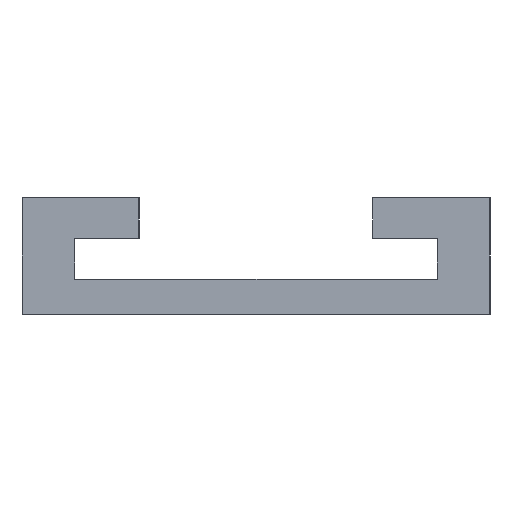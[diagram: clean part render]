
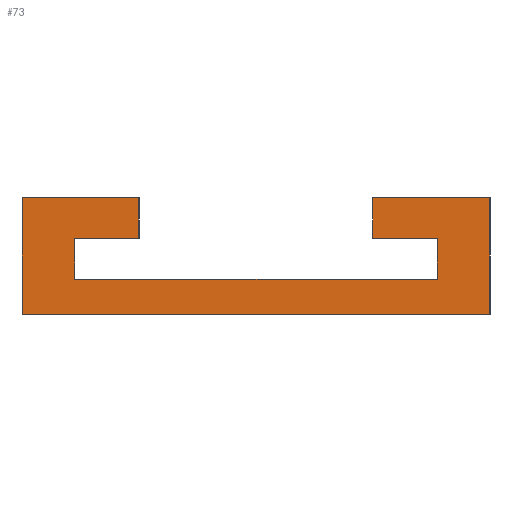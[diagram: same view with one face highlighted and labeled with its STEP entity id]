
A CAD part, left-side view. The second image highlights one B-rep face of the part: STEP entity #73.
In plain terms, the highlighted planar face has unit normal (-1, 0, 0).
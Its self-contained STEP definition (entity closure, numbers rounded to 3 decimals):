
#8 = VERTEX_POINT ( 'NONE', #239 ) ;
#18 = LINE ( 'NONE', #253, #305 ) ;
#21 = ORIENTED_EDGE ( 'NONE', *, *, #191, .F. ) ;
#25 = CARTESIAN_POINT ( 'NONE',  ( 0., 20., 0. ) ) ;
#27 = CARTESIAN_POINT ( 'NONE',  ( 0., 15.5, 6.5 ) ) ;
#28 = CARTESIAN_POINT ( 'NONE',  ( 0., 10., 6.5 ) ) ;
#30 = VECTOR ( 'NONE', #60, 1000. ) ;
#36 = EDGE_CURVE ( 'NONE', #204, #343, #192, .T. ) ;
#43 = LINE ( 'NONE', #207, #410 ) ;
#48 = FACE_OUTER_BOUND ( 'NONE', #108, .T. ) ;
#50 = EDGE_CURVE ( 'NONE', #343, #8, #84, .T. ) ;
#52 = ORIENTED_EDGE ( 'NONE', *, *, #92, .F. ) ;
#58 = CARTESIAN_POINT ( 'NONE',  ( 0., -15.5, 3. ) ) ;
#59 = DIRECTION ( 'NONE',  ( 0., 0., 1. ) ) ;
#60 = DIRECTION ( 'NONE',  ( 0., 0., -1. ) ) ;
#62 = VERTEX_POINT ( 'NONE', #411 ) ;
#68 = CARTESIAN_POINT ( 'NONE',  ( 0., 20., 10. ) ) ;
#73 = ADVANCED_FACE ( 'NONE', ( #48 ), #277, .F. ) ;
#77 = ORIENTED_EDGE ( 'NONE', *, *, #328, .F. ) ;
#84 = LINE ( 'NONE', #446, #304 ) ;
#89 = EDGE_CURVE ( 'NONE', #240, #189, #365, .T. ) ;
#92 = EDGE_CURVE ( 'NONE', #281, #301, #440, .T. ) ;
#94 = CARTESIAN_POINT ( 'NONE',  ( 0., 0., 0. ) ) ;
#99 = VERTEX_POINT ( 'NONE', #27 ) ;
#108 = EDGE_LOOP ( 'NONE', ( #52, #77, #346, #415, #233, #172, #274, #429, #376, #325, #273, #21 ) ) ;
#111 = VECTOR ( 'NONE', #59, 1000. ) ;
#114 = VERTEX_POINT ( 'NONE', #347 ) ;
#121 = EDGE_CURVE ( 'NONE', #189, #439, #460, .T. ) ;
#129 = AXIS2_PLACEMENT_3D ( 'NONE', #94, #424, #209 ) ;
#159 = CARTESIAN_POINT ( 'NONE',  ( 0., -10., 6.5 ) ) ;
#163 = EDGE_CURVE ( 'NONE', #180, #62, #237, .T. ) ;
#168 = DIRECTION ( 'NONE',  ( 0., -1., 0. ) ) ;
#170 = DIRECTION ( 'NONE',  ( 0., -1., 0. ) ) ;
#171 = CARTESIAN_POINT ( 'NONE',  ( 0., -20., 0. ) ) ;
#172 = ORIENTED_EDGE ( 'NONE', *, *, #372, .F. ) ;
#175 = CARTESIAN_POINT ( 'NONE',  ( 0., 20., 0. ) ) ;
#180 = VERTEX_POINT ( 'NONE', #272 ) ;
#189 = VERTEX_POINT ( 'NONE', #210 ) ;
#191 = EDGE_CURVE ( 'NONE', #301, #180, #43, .T. ) ;
#192 = LINE ( 'NONE', #159, #208 ) ;
#204 = VERTEX_POINT ( 'NONE', #320 ) ;
#207 = CARTESIAN_POINT ( 'NONE',  ( 0., 20., 10. ) ) ;
#208 = VECTOR ( 'NONE', #342, 1000. ) ;
#209 = DIRECTION ( 'NONE',  ( 0., 0., -1. ) ) ;
#210 = CARTESIAN_POINT ( 'NONE',  ( 0., -15.5, 3. ) ) ;
#221 = LINE ( 'NONE', #351, #30 ) ;
#228 = VECTOR ( 'NONE', #348, 1000. ) ;
#233 = ORIENTED_EDGE ( 'NONE', *, *, #36, .F. ) ;
#237 = LINE ( 'NONE', #280, #228 ) ;
#239 = CARTESIAN_POINT ( 'NONE',  ( 0., -20., 10. ) ) ;
#240 = VERTEX_POINT ( 'NONE', #387 ) ;
#244 = DIRECTION ( 'NONE',  ( 0., 0., 1. ) ) ;
#253 = CARTESIAN_POINT ( 'NONE',  ( 0., -15.5, 6.5 ) ) ;
#270 = VECTOR ( 'NONE', #168, 1000. ) ;
#272 = CARTESIAN_POINT ( 'NONE',  ( 0., 10., 10. ) ) ;
#273 = ORIENTED_EDGE ( 'NONE', *, *, #163, .F. ) ;
#274 = ORIENTED_EDGE ( 'NONE', *, *, #121, .F. ) ;
#277 = PLANE ( 'NONE',  #129 ) ;
#280 = CARTESIAN_POINT ( 'NONE',  ( 0., 10., 10. ) ) ;
#281 = VERTEX_POINT ( 'NONE', #175 ) ;
#285 = CARTESIAN_POINT ( 'NONE',  ( 0., -10., 10. ) ) ;
#286 = CARTESIAN_POINT ( 'NONE',  ( 0., -20., 10. ) ) ;
#299 = EDGE_CURVE ( 'NONE', #8, #114, #419, .T. ) ;
#301 = VERTEX_POINT ( 'NONE', #68 ) ;
#303 = EDGE_CURVE ( 'NONE', #99, #240, #221, .T. ) ;
#304 = VECTOR ( 'NONE', #414, 1000. ) ;
#305 = VECTOR ( 'NONE', #357, 1000. ) ;
#307 = LINE ( 'NONE', #171, #334 ) ;
#313 = LINE ( 'NONE', #28, #385 ) ;
#320 = CARTESIAN_POINT ( 'NONE',  ( 0., -10., 6.5 ) ) ;
#325 = ORIENTED_EDGE ( 'NONE', *, *, #394, .F. ) ;
#328 = EDGE_CURVE ( 'NONE', #114, #281, #307, .T. ) ;
#334 = VECTOR ( 'NONE', #427, 1000. ) ;
#342 = DIRECTION ( 'NONE',  ( 0., 0., 1. ) ) ;
#343 = VERTEX_POINT ( 'NONE', #285 ) ;
#346 = ORIENTED_EDGE ( 'NONE', *, *, #299, .F. ) ;
#347 = CARTESIAN_POINT ( 'NONE',  ( 0., -20., 0. ) ) ;
#348 = DIRECTION ( 'NONE',  ( 0., 0., -1. ) ) ;
#351 = CARTESIAN_POINT ( 'NONE',  ( 0., 15.5, 6.5 ) ) ;
#352 = DIRECTION ( 'NONE',  ( 0., 0., -1. ) ) ;
#357 = DIRECTION ( 'NONE',  ( 0., 1., 0. ) ) ;
#365 = LINE ( 'NONE', #382, #270 ) ;
#372 = EDGE_CURVE ( 'NONE', #439, #204, #18, .T. ) ;
#376 = ORIENTED_EDGE ( 'NONE', *, *, #303, .F. ) ;
#382 = CARTESIAN_POINT ( 'NONE',  ( 0., 15.5, 3. ) ) ;
#385 = VECTOR ( 'NONE', #459, 1000. ) ;
#387 = CARTESIAN_POINT ( 'NONE',  ( 0., 15.5, 3. ) ) ;
#394 = EDGE_CURVE ( 'NONE', #62, #99, #313, .T. ) ;
#410 = VECTOR ( 'NONE', #170, 1000. ) ;
#411 = CARTESIAN_POINT ( 'NONE',  ( 0., 10., 6.5 ) ) ;
#414 = DIRECTION ( 'NONE',  ( 0., -1., 0. ) ) ;
#415 = ORIENTED_EDGE ( 'NONE', *, *, #50, .F. ) ;
#419 = LINE ( 'NONE', #286, #443 ) ;
#424 = DIRECTION ( 'NONE',  ( 1., 0., 0. ) ) ;
#427 = DIRECTION ( 'NONE',  ( 0., 1., 0. ) ) ;
#429 = ORIENTED_EDGE ( 'NONE', *, *, #89, .F. ) ;
#437 = CARTESIAN_POINT ( 'NONE',  ( 0., -15.5, 6.5 ) ) ;
#439 = VERTEX_POINT ( 'NONE', #437 ) ;
#440 = LINE ( 'NONE', #25, #111 ) ;
#443 = VECTOR ( 'NONE', #352, 1000. ) ;
#446 = CARTESIAN_POINT ( 'NONE',  ( 0., -10., 10. ) ) ;
#447 = VECTOR ( 'NONE', #244, 1000. ) ;
#459 = DIRECTION ( 'NONE',  ( 0., 1., 0. ) ) ;
#460 = LINE ( 'NONE', #58, #447 ) ;
